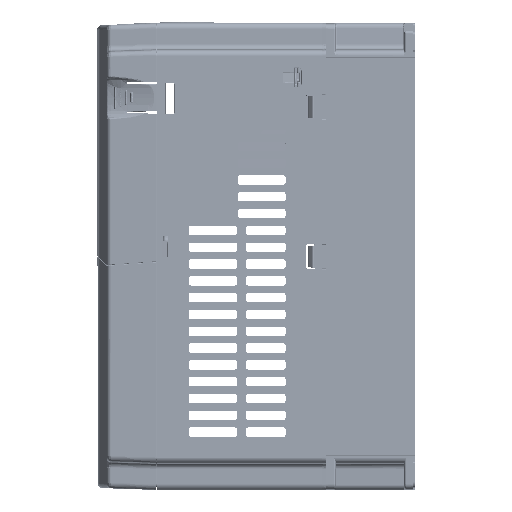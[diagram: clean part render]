
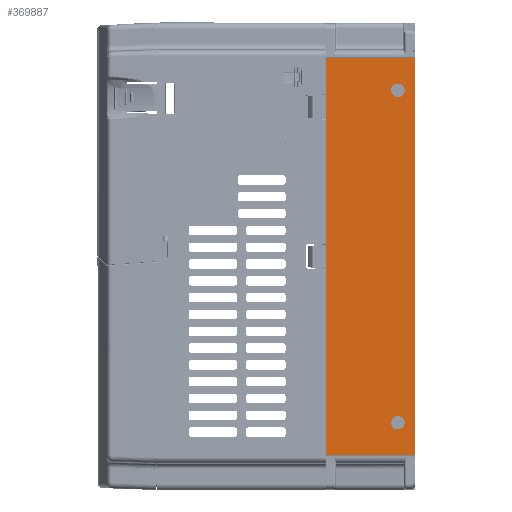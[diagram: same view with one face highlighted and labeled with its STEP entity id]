
A CAD part, left-side view. The second image highlights one B-rep face of the part: STEP entity #369887.
In plain terms, the highlighted planar face has unit normal (-1, 0, 0).
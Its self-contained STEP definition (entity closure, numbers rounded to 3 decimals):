
#335732=DIRECTION('',(0.,0.,-1.));
#335733=VECTOR('',#335732,213.);
#335734=CARTESIAN_POINT('',(-60.,-49.5,106.5));
#335735=LINE('',#335734,#335733);
#340333=DIRECTION('',(0.,-1.,0.));
#340334=VECTOR('',#340333,47.4);
#340335=CARTESIAN_POINT('',(-60.,-2.1,106.5));
#340336=LINE('',#340335,#340334);
#340341=DIRECTION('',(0.,-1.,0.));
#340342=VECTOR('',#340341,47.4);
#340343=CARTESIAN_POINT('',(-60.,-2.1,-106.5));
#340344=LINE('',#340343,#340342);
#340345=DIRECTION('',(0.,0.,-1.));
#340346=VECTOR('',#340345,213.);
#340347=CARTESIAN_POINT('',(-60.,-2.1,106.5));
#340348=LINE('',#340347,#340346);
#340349=CARTESIAN_POINT('',(-60.,-40.5,89.));
#340350=DIRECTION('',(1.,0.,0.));
#340351=DIRECTION('',(0.,1.,0.));
#340352=AXIS2_PLACEMENT_3D('',#340349,#340350,#340351);
#340354=CARTESIAN_POINT('',(-60.,-40.5,89.));
#340355=DIRECTION('',(1.,0.,0.));
#340356=DIRECTION('',(0.,-1.,0.));
#340357=AXIS2_PLACEMENT_3D('',#340354,#340355,#340356);
#340359=CARTESIAN_POINT('',(-60.,-40.5,-89.));
#340360=DIRECTION('',(1.,0.,0.));
#340361=DIRECTION('',(0.,-1.,0.));
#340362=AXIS2_PLACEMENT_3D('',#340359,#340360,#340361);
#340364=CARTESIAN_POINT('',(-60.,-40.5,-89.));
#340365=DIRECTION('',(1.,0.,0.));
#340366=DIRECTION('',(0.,1.,0.));
#340367=AXIS2_PLACEMENT_3D('',#340364,#340365,#340366);
#356988=CARTESIAN_POINT('',(-60.,-49.5,106.5));
#356989=VERTEX_POINT('',#356988);
#357068=CARTESIAN_POINT('',(-60.,-36.9,-89.));
#357069=VERTEX_POINT('',#357068);
#357070=CARTESIAN_POINT('',(-60.,-44.1,-89.));
#357071=VERTEX_POINT('',#357070);
#357074=CARTESIAN_POINT('',(-60.,-49.5,-106.5));
#357075=VERTEX_POINT('',#357074);
#357167=CARTESIAN_POINT('',(-60.,-44.1,89.));
#357168=VERTEX_POINT('',#357167);
#357169=CARTESIAN_POINT('',(-60.,-36.9,89.));
#357170=VERTEX_POINT('',#357169);
#357173=CARTESIAN_POINT('',(-60.,-2.1,106.5));
#357174=VERTEX_POINT('',#357173);
#357305=CARTESIAN_POINT('',(-60.,-2.1,-106.5));
#357306=VERTEX_POINT('',#357305);
#369862=CARTESIAN_POINT('',(-60.,-49.5,106.5));
#369863=DIRECTION('',(1.,0.,0.));
#369864=DIRECTION('',(0.,1.,0.));
#369865=AXIS2_PLACEMENT_3D('',#369862,#369863,#369864);
#369866=PLANE('',#369865);
#369868=ORIENTED_EDGE('',*,*,#369867,.F.);
#369870=ORIENTED_EDGE('',*,*,#369869,.F.);
#369871=ORIENTED_EDGE('',*,*,#369855,.T.);
#369872=ORIENTED_EDGE('',*,*,#363568,.T.);
#369873=EDGE_LOOP('',(#369868,#369870,#369871,#369872));
#369874=FACE_OUTER_BOUND('',#369873,.F.);
#369876=ORIENTED_EDGE('',*,*,#369875,.F.);
#369878=ORIENTED_EDGE('',*,*,#369877,.F.);
#369879=EDGE_LOOP('',(#369876,#369878));
#369880=FACE_BOUND('',#369879,.F.);
#369882=ORIENTED_EDGE('',*,*,#369881,.F.);
#369884=ORIENTED_EDGE('',*,*,#369883,.F.);
#369885=EDGE_LOOP('',(#369882,#369884));
#369886=FACE_BOUND('',#369885,.F.);
#340353=CIRCLE('',#340352,3.6);
#340358=CIRCLE('',#340357,3.6);
#340363=CIRCLE('',#340362,3.6);
#340368=CIRCLE('',#340367,3.6);
#363568=EDGE_CURVE('',#356989,#357075,#335735,.T.);
#369855=EDGE_CURVE('',#357174,#356989,#340336,.T.);
#369867=EDGE_CURVE('',#357306,#357075,#340344,.T.);
#369869=EDGE_CURVE('',#357174,#357306,#340348,.T.);
#369875=EDGE_CURVE('',#357170,#357168,#340353,.T.);
#369877=EDGE_CURVE('',#357168,#357170,#340358,.T.);
#369881=EDGE_CURVE('',#357071,#357069,#340363,.T.);
#369883=EDGE_CURVE('',#357069,#357071,#340368,.T.);
#369887=ADVANCED_FACE('',(#369874,#369880,#369886),#369866,.F.);
